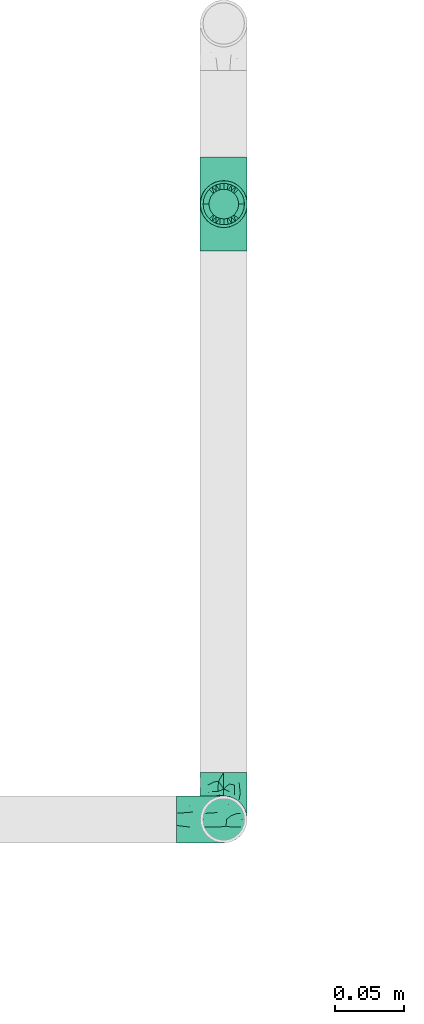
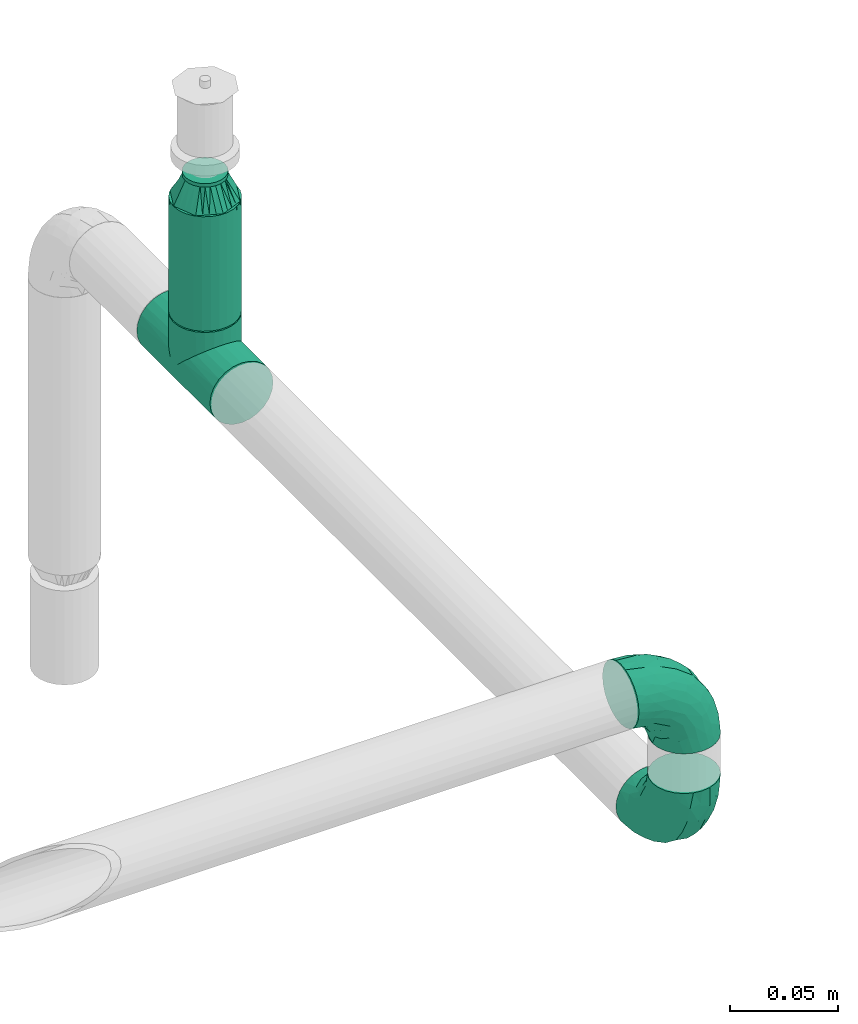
# One storey, part 115 of 157: 4 flow fittings, 1 flow segment.
"""IFC2X3 building model written with IfcOpenShell, lengths in millimetres."""

from ifc_helpers import new_model, entity, si_unit, converted_unit, derived_unit, direction, frame, origin_with_axes, origin_2d_with_axis, place, context, subcontext, project, spatial, hollow_circle, extrude, open_shell, surface_model, source, transform, mapped, type_object, element, save


model = new_model("IFC2X3")

# Units and contexts
model_context = context("Model", 3, precision=0.01, world=frame((0.0, 4.29681676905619e-09, 0.0)), true_north=direction((4.01073788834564e-13, 1.0)))
plan_context = context("Plan", 3, precision=0.01, world=frame((0.0, 4.29681676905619e-09, 0.0)), true_north=direction((4.01073788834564e-13, 1.0)))
body_context = subcontext(model_context, "Body", "Model", "MODEL_VIEW")
ifc_project = project(units=[converted_unit("PLANEANGLEUNIT", "DEGREE", entity("IfcPositiveLengthMeasure", 0.0174532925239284), si_unit("PLANEANGLEUNIT", "RADIAN"), dimensions=[0, 0, 0, 0, 0, 0, 0]), si_unit("AREAUNIT", "SQUARE_METRE"), si_unit("LENGTHUNIT", "METRE", prefix="MILLI"), si_unit("MASSUNIT", "GRAM", prefix="KILO"), si_unit("POWERUNIT", "WATT"), si_unit("PRESSUREUNIT", "PASCAL"), si_unit("FORCEUNIT", "NEWTON", prefix="KILO"), si_unit("ELECTRICCURRENTUNIT", "AMPERE"), si_unit("THERMODYNAMICTEMPERATUREUNIT", "DEGREE_CELSIUS"), si_unit("TIMEUNIT", "SECOND"), si_unit("VOLUMEUNIT", "CUBIC_METRE"), derived_unit("LINEARVELOCITYUNIT", [(si_unit("LENGTHUNIT", "METRE"), 1), (si_unit("TIMEUNIT", "SECOND"), -1)]), derived_unit("VOLUMETRICFLOWRATEUNIT", [(si_unit("VOLUMEUNIT", "CUBIC_METRE"), 1), (si_unit("TIMEUNIT", "SECOND"), -1)]), derived_unit("THERMALTRANSMITTANCEUNIT", [(si_unit("POWERUNIT", "WATT"), 1), (si_unit("THERMODYNAMICTEMPERATUREUNIT", "KELVIN"), -1), (si_unit("AREAUNIT", "SQUARE_METRE"), -1)])], contexts=[model_context, plan_context])

# Site, building, storey
site_placement = place(None, frame((0.0, -4.29681676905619e-09, 0.0), z_axis=(0.0, 0.0, 1.0), x_axis=(1.0, 0.0, 0.0)))
site = spatial("IfcSite", under=ifc_project, at=site_placement, CompositionType="ELEMENT")
building_placement = place(site_placement, frame((0.0, 4.29681676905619e-09, 0.0), z_axis=(0.0, 0.0, 1.0), x_axis=(1.0, 0.0, 0.0)))
building = spatial("IfcBuilding", under=site, at=building_placement, Name="mc-building", CompositionType="ELEMENT")
storey_placement = place(building_placement, frame((0.0, 0.0, 204000.0), z_axis=(0.0, 0.0, 1.0), x_axis=(1.0, 0.0, 0.0)))
storey = spatial("IfcBuildingStorey", under=building, at=storey_placement, Name="Nivå D", CompositionType="ELEMENT", Elevation=204000.0)

# Flow fittings
pipe_fitting_type_1 = type_object("IfcPipeFittingType", Name="magi_pipe_fe_tee_centric_90_NOR", PredefinedType="JUNCTION")
shared_shape_1 = source(origin_with_axes(), body_context, "Body", "SurfaceModel", [
    surface_model("IfcShellBasedSurfaceModel", [(-33.8, 4.37404, -16.32415), (-33.8, 0.0, -16.9), (-33.8, 16.32415, -4.37404), (-33.8, 8.45, -14.63583), (-33.8, 11.9501, -11.9501), (-33.8, 14.63583, -8.45), (-33.8, -16.9, 0.0), (-33.8, -11.9501, -11.9501), (-33.8, -14.63583, -8.45), (-33.8, -8.45, -14.63583), (-33.8, -4.37404, -16.32415), (-33.8, -16.32415, -4.37404), (-33.8, 14.63583, 8.45), (-33.8, 16.32415, 4.37404), (-33.8, -8.45, 14.63583), (-33.8, 8.45, 14.63583), (-33.8, 11.9501, 11.9501), (-33.8, 4.37404, 16.32415), (-33.8, 0.0, 16.9), (-33.8, -11.9501, 11.9501), (-33.8, -14.63583, 8.45), (-33.8, -16.32415, 4.37404), (-33.8, -4.37404, 16.32415), (-33.8, 16.9, 0.0), (33.8, 4.37404, -16.32415), (33.8, -16.9, 0.0), (33.8, 0.0, -16.9), (33.8, 14.63583, -8.45), (33.8, 8.45, -14.63583), (33.8, 16.32415, -4.37404), (33.8, 11.9501, -11.9501), (33.8, -16.32415, 4.37404), (33.8, -8.45, -14.63583), (33.8, -4.37404, -16.32415), (33.8, -11.9501, -11.9501), (33.8, -14.63583, -8.45), (33.8, -16.32415, -4.37404), (33.8, 16.32415, 4.37404), (33.8, 8.45, 14.63583), (33.8, 14.63583, 8.45), (33.8, 11.9501, 11.9501), (33.8, -8.45, 14.63583), (33.8, 4.37404, 16.32415), (33.8, -14.63583, 8.45), (33.8, -11.9501, 11.9501), (33.8, 0.0, 16.9), (33.8, -4.37404, 16.32415), (33.8, 16.9, 0.0), (16.28698, -16.28698, 4.51047), (16.9, -16.9, 0.0), (14.62704, -14.62704, 8.4652), (9.47213, -9.47213, 13.99602), (12.26343, -12.26343, 11.62834), (-16.9, -16.9, 0.0), (-16.28698, -16.28698, 4.51047), (-14.62704, -14.62704, 8.4652), (-12.26343, -12.26343, 11.62834), (-9.47213, -9.47213, 13.99602), (-6.42894, -6.42894, 15.62942), (6.42894, -6.42894, 15.62942), (3.24522, -3.24522, 16.58549), (0.0, 0.0, 16.9), (-3.24522, -3.24522, 16.58549), (3.24522, -3.24522, -16.58549), (0.0, 0.0, -16.9), (-3.24522, -3.24522, -16.58549), (-6.42894, -6.42894, -15.62942), (6.42894, -6.42894, -15.62942), (9.47213, -9.47213, -13.99602), (12.26343, -12.26343, -11.62834), (14.62704, -14.62704, -8.4652), (16.28698, -16.28698, -4.51047), (-9.47213, -9.47213, -13.99602), (-12.26343, -12.26343, -11.62834), (-16.28698, -16.28698, -4.51047), (-14.62704, -14.62704, -8.4652), (4.37404, -25.35, -16.32415), (-16.9, -25.35, 0.0), (0.0, -25.35, -16.9), (14.63583, -25.35, -8.45), (8.45, -25.35, -14.63583), (16.32415, -25.35, -4.37404), (11.9501, -25.35, -11.9501), (-11.9501, -25.35, -11.9501), (-8.45, -25.35, -14.63583), (-4.37404, -25.35, -16.32415), (-14.63583, -25.35, -8.45), (-16.32415, -25.35, -4.37404), (16.9, -25.35, 0.0), (8.45, -25.35, 14.63583), (16.32415, -25.35, 4.37404), (14.63583, -25.35, 8.45), (-8.45, -25.35, 14.63583), (11.9501, -25.35, 11.9501), (4.37404, -25.35, 16.32415), (-16.32415, -25.35, 4.37404), (-11.9501, -25.35, 11.9501), (-14.63583, -25.35, 8.45), (0.0, -25.35, 16.9), (-4.37404, -25.35, 16.32415)], [open_shell([[[0, 1, 2]], [[3, 0, 4]], [[0, 2, 5]], [[4, 0, 5]], [[6, 2, 1]], [[7, 8, 9]], [[1, 10, 9]], [[11, 6, 8]], [[1, 9, 8]], [[1, 8, 6]], [[6, 12, 2]], [[12, 13, 2]], [[14, 12, 6]], [[12, 14, 15]], [[16, 12, 15]], [[17, 15, 18]], [[19, 14, 20]], [[21, 20, 14]], [[22, 18, 14]], [[14, 6, 21]], [[14, 18, 15]], [[23, 2, 13]], [[24, 25, 26]], [[27, 24, 28]], [[27, 29, 24]], [[27, 28, 30]], [[31, 25, 24]], [[26, 32, 33]], [[26, 34, 32]], [[35, 25, 36]], [[35, 34, 26]], [[25, 35, 26]], [[24, 29, 31]], [[29, 37, 38]], [[38, 37, 39]], [[38, 31, 29]], [[38, 39, 40]], [[41, 38, 42]], [[43, 41, 44]], [[41, 43, 31]], [[41, 45, 46]], [[41, 31, 38]], [[42, 45, 41]], [[29, 47, 37]], [[31, 43, 48]], [[25, 31, 49]], [[49, 31, 48]], [[43, 50, 48]], [[44, 41, 51]], [[50, 43, 52]], [[51, 52, 44]], [[52, 43, 44]], [[53, 54, 21]], [[53, 21, 6]], [[21, 54, 20]], [[54, 55, 20]], [[56, 57, 19]], [[19, 20, 56]], [[19, 57, 14]], [[56, 20, 55]], [[14, 57, 58]], [[51, 41, 59]], [[60, 45, 61]], [[59, 46, 60]], [[46, 59, 41]], [[60, 46, 45]], [[61, 45, 42]], [[39, 37, 13]], [[16, 38, 40]], [[12, 40, 39]], [[42, 38, 15]], [[23, 37, 47]], [[62, 61, 18]], [[62, 22, 58]], [[22, 62, 18]], [[58, 22, 14]], [[61, 17, 18]], [[42, 17, 61]], [[15, 17, 42]], [[15, 38, 16]], [[12, 16, 40]], [[13, 12, 39]], [[37, 23, 13]], [[5, 27, 30]], [[23, 47, 29]], [[30, 28, 3]], [[27, 2, 29]], [[26, 33, 63]], [[26, 64, 24]], [[64, 26, 63]], [[28, 24, 0]], [[64, 0, 24]], [[4, 30, 3]], [[2, 27, 5]], [[5, 30, 4]], [[2, 23, 29]], [[65, 66, 10]], [[1, 0, 64]], [[1, 65, 10]], [[66, 9, 10]], [[0, 3, 28]], [[1, 64, 65]], [[63, 33, 67]], [[32, 34, 68]], [[69, 68, 34]], [[35, 70, 69]], [[69, 34, 35]], [[32, 68, 67]], [[36, 25, 49]], [[36, 71, 35]], [[71, 36, 49]], [[35, 71, 70]], [[72, 9, 66]], [[72, 7, 9]], [[7, 72, 73]], [[7, 73, 8]], [[74, 53, 11]], [[75, 74, 8]], [[74, 11, 8]], [[11, 53, 6]], [[75, 8, 73]], [[32, 67, 33]], [[76, 77, 78]], [[79, 76, 80]], [[79, 81, 76]], [[79, 80, 82]], [[77, 76, 81]], [[78, 83, 84]], [[84, 85, 78]], [[86, 77, 87]], [[83, 78, 86]], [[77, 86, 78]], [[81, 88, 77]], [[89, 88, 90]], [[89, 90, 91]], [[92, 77, 89]], [[89, 91, 93]], [[92, 89, 94]], [[95, 96, 97]], [[96, 95, 92]], [[92, 98, 99]], [[95, 77, 92]], [[94, 98, 92]], [[89, 77, 88]], [[77, 95, 53]], [[54, 53, 95]], [[97, 96, 56]], [[96, 92, 57]], [[95, 97, 54]], [[58, 92, 99]], [[55, 54, 97]], [[56, 55, 97]], [[58, 57, 92]], [[98, 61, 62]], [[58, 99, 62]], [[56, 96, 57]], [[62, 99, 98]], [[94, 60, 98]], [[89, 59, 94]], [[91, 90, 48]], [[52, 93, 91]], [[93, 51, 89]], [[49, 90, 88]], [[59, 60, 94]], [[51, 59, 89]], [[49, 48, 90]], [[50, 52, 91]], [[48, 50, 91]], [[51, 93, 52]], [[98, 60, 61]], [[88, 81, 49]], [[71, 49, 81]], [[79, 82, 69]], [[82, 80, 68]], [[81, 79, 71]], [[67, 80, 76]], [[70, 71, 79]], [[69, 70, 79]], [[67, 68, 80]], [[78, 64, 63]], [[67, 76, 63]], [[69, 82, 68]], [[63, 76, 78]], [[85, 65, 78]], [[84, 66, 85]], [[86, 87, 74]], [[86, 73, 83]], [[72, 84, 83]], [[53, 87, 77]], [[66, 65, 85]], [[72, 66, 84]], [[53, 74, 87]], [[75, 73, 86]], [[74, 75, 86]], [[72, 83, 73]], [[78, 65, 64]]])]),
])
flow_fitting_1_placement = place(storey_placement, frame((524499.91685, 416469.99999, 2600.0), z_axis=(-0.999999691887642, 0.0, 0.000784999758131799), x_axis=(0.0, 1.0, 0.0)))
element("IfcFlowFitting", 1, at=flow_fitting_1_placement, inside=storey, type_object=pipe_fitting_type_1, Name="magi_pipe_fe_tee_centric_90_NOR", context=body_context, shape_type="MappedRepresentation", body=[
    mapped(shared_shape_1, transform((0.0, 0.0, 0.0), scale=1.0)),
])
pipe_fitting_type_2 = type_object("IfcPipeFittingType", Name="magi_pipe_fe_elbow_short_001", PredefinedType="BEND")
shared_shape_2 = source(origin_with_axes(), body_context, "Body", "SurfaceModel", [
    surface_model("IfcShellBasedSurfaceModel", [(-33.8, 8.45, -14.63583), (-33.8, 4.37404, -16.32415), (-33.8, 11.9501, -11.9501), (-33.8, -11.9501, -11.9501), (-33.8, -14.63583, -8.45), (-33.8, -8.45, -14.63583), (-33.8, 0.0, -16.9), (-33.8, -4.37404, -16.32415), (-33.8, -4.37404, 16.32415), (-33.8, 0.0, 16.9), (-33.8, -8.45, 14.63583), (-33.8, 16.32415, -4.37404), (-33.8, 14.63583, -8.45), (-33.8, -16.32415, -4.37404), (-33.8, -16.9, 0.0), (-33.8, -16.32415, 4.37404), (-33.8, 11.9501, 11.9501), (-33.8, 14.63583, 8.45), (-33.8, 16.32415, 4.37404), (-33.8, 4.37404, 16.32415), (-33.8, 8.45, 14.63583), (-33.8, -14.63583, 8.45), (-33.8, -11.9501, 11.9501), (-33.8, 16.9, 0.0), (-11.9501, 33.8, -11.9501), (0.0, 33.8, -16.9), (-4.37404, 33.8, -16.32415), (-8.45, 33.8, -14.63583), (-14.63583, 33.8, -8.45), (-16.32415, 33.8, -4.37404), (14.63583, 33.8, -8.45), (8.45, 33.8, 14.63583), (16.32415, 33.8, -4.37404), (8.45, 33.8, -14.63583), (11.9501, 33.8, -11.9501), (4.37404, 33.8, -16.32415), (16.32415, 33.8, 4.37404), (16.9, 33.8, 0.0), (-11.9501, 33.8, 11.9501), (-16.32415, 33.8, 4.37404), (-14.63583, 33.8, 8.45), (-8.45, 33.8, 14.63583), (-4.37404, 33.8, 16.32415), (11.9501, 33.8, 11.9501), (14.63583, 33.8, 8.45), (0.0, 33.8, 16.9), (4.37404, 33.8, 16.32415), (-16.9, 33.8, 0.0), (-24.79389, -13.12945, 9.48721), (-22.19287, -9.75018, 12.59315), (-24.09897, -14.97035, 0.0), (-14.93934, -10.76256, 8.5297), (-22.46095, -14.75051, 5.27077), (14.75051, 22.46094, 5.27077), (11.9251, 13.23888, 4.33236), (13.04069, 14.39795, 0.0), (7.71387, 13.68847, 11.55891), (9.75018, 22.19287, 12.59315), (4.10169, 13.0571, 14.04018), (-24.84007, -6.39063, 15.2048), (-25.81779, -2.23879, 16.61097), (-23.66549, 2.59054, 16.87119), (-26.50418, 14.06512, 11.08152), (-24.21253, 17.66365, 7.72657), (-29.58514, 15.86957, 7.00283), (-6.17382, -7.5455, 0.0), (-13.23888, -11.9251, 4.33236), (-14.39795, -13.04069, 0.0), (-17.81434, 18.87373, 11.97104), (-6.30846, 29.15138, 15.82987), (-2.31622, 25.28002, 16.85849), (-29.23923, 10.23435, 13.77053), (-1.45439, -2.85688, 7.61475), (-0.28326, 0.34872, 10.09509), (-5.74484, -4.04709, 10.4122), (-4.41137, 11.31918, 16.59407), (-8.39727, 3.10034, 15.7812), (-1.72649, 9.1306, 15.53089), (-17.39909, 24.75344, 7.64977), (-26.19233, 20.0512, 0.0), (-28.14518, 17.29657, 4.25857), (-26.05147, 6.6281, 15.96447), (-5.87354, 16.61944, 16.86968), (-12.51807, 12.51807, 16.48937), (-10.06312, 7.38516, 16.81295), (-3.01882, 3.01882, 13.81718), (-13.0571, -4.10169, 14.04018), (-16.82553, -0.15166, 16.38038), (10.76256, 14.93934, 8.5297), (13.12945, 24.79389, 9.48721), (6.39063, 24.84007, 15.2048), (2.23879, 25.81779, 16.61097), (-13.68847, -7.71387, 11.55891), (14.97035, 24.09897, 0.0), (-7.30894, 22.89991, 16.09489), (-10.67958, 26.17414, 14.008), (-12.78295, 18.26924, 15.06066), (-13.88562, 22.45231, 12.93244), (-18.04944, 15.16501, 14.04434), (-23.11658, 20.08178, 4.02986), (-21.84989, 21.84989, 0.0), (-18.55817, 25.48277, 3.93065), (-13.95142, 26.94732, 11.03289), (-18.57098, 7.23906, 16.59756), (-16.58335, 4.14122, 16.89279), (-17.96666, 11.46709, 15.63151), (-9.84453, 17.54304, 16.18938), (0.15166, 16.82553, 16.38038), (-23.27207, 11.47201, 14.23154), (3.84842, 5.86994, 10.70473), (-8.0212, -7.54413, 7.93275), (1.00345, -2.19508, 4.57414), (5.13203, 3.01004, 5.90201), (5.24161, 1.7543, 2.53265), (8.70457, 7.04947, 3.99182), (-20.0512, 26.19233, 0.0), (8.4852, 8.76699, 7.09296), (-4.55488, -6.72064, 4.90681), (2.05031, -2.05031, 0.0), (7.5455, 6.17382, 0.0), (-26.75399, 2.1369, -16.845), (-14.61995, 24.73803, -11.27736), (-28.45274, -13.45335, -9.81895), (-26.00469, 6.63555, -15.96645), (-23.06726, 20.04573, -4.26202), (-13.80647, -4.26506, -14.17873), (-14.67501, -0.21081, -16.07388), (-6.7902, -0.2828, -13.8478), (-24.53586, 11.08096, -14.13417), (-26.72048, 14.00837, -11.05776), (10.0967, 24.44989, -12.75976), (5.83237, 21.40218, -15.03047), (6.66249, 28.54238, -15.38093), (-20.38182, 15.48705, -12.74596), (12.53268, 21.23441, -9.15363), (12.54494, 15.67504, -5.54878), (9.7522, 12.89279, -8.66343), (-15.65186, 19.64213, -13.01327), (-12.03528, 20.66498, -14.67665), (-15.61907, 15.61906, -14.83879), (-25.56551, -15.26206, 0.0), (-24.65452, -15.12934, -5.50955), (13.45335, 28.45274, -9.81895), (15.12934, 24.65452, -5.50955), (-7.35442, -8.31014, -5.65563), (-15.67504, -12.54494, -5.54878), (-24.44989, -10.0967, -12.75976), (0.16522, 0.41303, -9.71728), (-5.70658, -5.33066, -8.89288), (-5.13869, -2.37198, -11.53565), (-21.23441, -12.53268, -9.15363), (0.71146, 7.93863, -14.09382), (0.21081, 14.67501, -16.07388), (3.49291, 14.42772, -14.76381), (-24.89911, -2.13088, -16.591), (-28.54238, -6.66249, -15.38093), (-18.44386, -7.71663, -13.26957), (2.13088, 24.89911, -16.591), (-28.64342, 17.44413, -2.89318), (1.70017, -1.28722, -5.09504), (-16.57067, 26.81947, -7.36596), (-17.69055, 27.4263, -3.76405), (-12.89279, -9.7522, -8.66343), (-5.96611, 5.96611, -15.95814), (-20.53709, 20.09345, -8.28985), (-2.1369, 26.75399, -16.845), (-6.89872, 24.58781, -16.02578), (-10.60739, 26.53157, -13.98044), (-21.40218, -5.83237, -15.03047), (2.93192, 5.89627, -11.55917), (6.89393, 12.61842, -11.82233), (5.58056, 5.95325, -8.79455), (-3.99512, 18.61798, -16.89635), (8.31014, 7.35442, -5.65563), (-9.1383, 9.86148, -16.89041), (-9.99983, 16.02119, -16.39699), (-16.68576, 9.78031, -16.34199), (-27.01915, 16.61158, -7.12979), (15.26206, 25.56551, 0.0), (-18.61798, 3.99512, -16.89635), (-19.37495, 27.82495, 0.0), (-12.61842, -6.89393, -11.82233), (-18.84705, 19.14018, -10.96545)], [open_shell([[[0, 1, 2]], [[3, 4, 5]], [[6, 7, 5]], [[8, 9, 10]], [[1, 6, 2]], [[11, 12, 2]], [[4, 2, 6]], [[2, 13, 10]], [[5, 4, 6]], [[2, 4, 13]], [[14, 15, 13]], [[11, 2, 16]], [[11, 17, 18]], [[11, 16, 17]], [[19, 20, 16]], [[16, 2, 10]], [[19, 16, 10]], [[21, 22, 15]], [[22, 13, 15]], [[22, 10, 13]], [[10, 9, 19]], [[11, 18, 23]], [[24, 25, 26]], [[24, 26, 27]], [[24, 28, 29]], [[25, 24, 30]], [[31, 32, 24]], [[33, 30, 34]], [[33, 35, 25]], [[25, 30, 33]], [[32, 30, 24]], [[32, 36, 37]], [[38, 24, 29]], [[39, 40, 29]], [[40, 38, 29]], [[38, 41, 42]], [[38, 31, 24]], [[31, 38, 42]], [[36, 43, 44]], [[36, 32, 43]], [[31, 45, 46]], [[32, 31, 43]], [[42, 45, 31]], [[39, 29, 47]], [[22, 48, 49]], [[15, 14, 50]], [[51, 48, 52]], [[53, 54, 55]], [[48, 22, 21]], [[15, 52, 21]], [[56, 57, 58]], [[49, 10, 22]], [[49, 59, 10]], [[9, 60, 61]], [[62, 63, 64]], [[65, 66, 67]], [[57, 43, 31]], [[62, 68, 63]], [[42, 69, 70]], [[20, 71, 16]], [[8, 60, 9]], [[72, 73, 74]], [[75, 76, 77]], [[16, 62, 17]], [[40, 39, 78]], [[79, 23, 80]], [[64, 18, 17]], [[9, 61, 19]], [[19, 81, 20]], [[82, 83, 84]], [[74, 85, 86]], [[59, 86, 87]], [[88, 89, 57]], [[90, 31, 46]], [[44, 53, 36]], [[46, 45, 91]], [[54, 53, 88]], [[44, 89, 53]], [[92, 86, 49]], [[89, 44, 43]], [[10, 59, 8]], [[53, 55, 93]], [[93, 36, 53]], [[66, 52, 67]], [[94, 82, 70]], [[95, 96, 94]], [[97, 98, 96]], [[79, 99, 100]], [[41, 38, 95]], [[101, 100, 99]], [[68, 78, 63]], [[42, 41, 69]], [[23, 18, 80]], [[95, 94, 69]], [[78, 101, 99]], [[38, 102, 95]], [[70, 45, 42]], [[97, 95, 102]], [[15, 50, 52]], [[90, 57, 31]], [[57, 90, 58]], [[81, 19, 61]], [[103, 104, 84]], [[105, 81, 103]], [[38, 40, 102]], [[106, 96, 83]], [[94, 106, 82]], [[91, 70, 107]], [[71, 62, 16]], [[62, 108, 98]], [[86, 59, 49]], [[67, 52, 50]], [[60, 59, 87]], [[92, 49, 51]], [[86, 85, 76]], [[91, 90, 46]], [[37, 36, 93]], [[107, 77, 58]], [[107, 58, 90]], [[58, 85, 109]], [[110, 74, 92]], [[72, 74, 110]], [[66, 51, 52]], [[72, 111, 112]], [[113, 114, 112]], [[56, 88, 57]], [[52, 48, 21]], [[49, 48, 51]], [[57, 89, 43]], [[53, 89, 88]], [[103, 81, 61]], [[71, 81, 108]], [[18, 64, 80]], [[63, 78, 99]], [[47, 115, 101]], [[101, 115, 100]], [[40, 78, 102]], [[68, 102, 78]], [[97, 96, 95]], [[105, 98, 108]], [[103, 84, 83]], [[107, 70, 82]], [[76, 84, 87]], [[82, 84, 75]], [[70, 91, 45]], [[90, 91, 107]], [[59, 60, 8]], [[61, 60, 87]], [[73, 85, 74]], [[109, 112, 116]], [[103, 61, 104]], [[105, 103, 83]], [[96, 105, 83]], [[81, 105, 108]], [[96, 98, 105]], [[62, 98, 68]], [[61, 87, 104]], [[87, 84, 104]], [[86, 76, 87]], [[77, 76, 85]], [[58, 77, 85]], [[75, 77, 107]], [[82, 75, 107]], [[76, 75, 84]], [[81, 71, 20]], [[62, 71, 108]], [[95, 69, 41]], [[70, 69, 94]], [[62, 64, 17]], [[80, 63, 99]], [[63, 80, 64]], [[80, 99, 79]], [[66, 65, 117]], [[110, 66, 117]], [[112, 114, 116]], [[118, 117, 65]], [[110, 92, 51]], [[112, 111, 113]], [[119, 55, 54]], [[74, 86, 92]], [[58, 109, 56]], [[116, 56, 109]], [[66, 110, 51]], [[72, 110, 117]], [[111, 72, 117]], [[73, 112, 109]], [[117, 118, 111]], [[113, 111, 118]], [[118, 119, 113]], [[114, 119, 54]], [[119, 114, 113]], [[116, 54, 88]], [[54, 116, 114]], [[116, 88, 56]], [[112, 73, 72]], [[85, 73, 109]], [[78, 39, 101]], [[47, 101, 39]], [[102, 68, 97]], [[97, 68, 98]], [[82, 106, 83]], [[94, 96, 106]], [[1, 120, 6]], [[28, 24, 121]], [[3, 122, 4]], [[0, 123, 1]], [[100, 124, 79]], [[125, 126, 127]], [[128, 2, 129]], [[130, 131, 132]], [[128, 129, 133]], [[134, 135, 136]], [[137, 138, 139]], [[128, 0, 2]], [[67, 140, 141]], [[134, 142, 143]], [[141, 13, 4]], [[144, 65, 145]], [[146, 3, 5]], [[147, 148, 149]], [[145, 141, 150]], [[151, 152, 153]], [[154, 7, 6]], [[5, 155, 146]], [[150, 146, 156]], [[155, 5, 7]], [[143, 135, 134]], [[35, 157, 25]], [[23, 79, 158]], [[148, 159, 144]], [[160, 161, 29]], [[145, 162, 144]], [[163, 152, 151]], [[29, 28, 160]], [[121, 164, 160]], [[33, 34, 130]], [[25, 165, 26]], [[26, 165, 166]], [[142, 34, 30]], [[24, 27, 167]], [[124, 161, 164]], [[157, 35, 132]], [[155, 154, 168]], [[123, 0, 128]], [[169, 170, 171]], [[172, 157, 152]], [[26, 166, 27]], [[132, 35, 33]], [[142, 130, 34]], [[168, 154, 126]], [[136, 135, 173]], [[133, 137, 139]], [[2, 12, 129]], [[170, 131, 130]], [[30, 32, 143]], [[172, 174, 175]], [[176, 123, 128]], [[158, 177, 11]], [[135, 55, 119]], [[167, 27, 166]], [[175, 166, 172]], [[137, 167, 138]], [[122, 141, 4]], [[140, 14, 13]], [[32, 37, 178]], [[170, 130, 134]], [[152, 157, 131]], [[165, 157, 172]], [[153, 170, 151]], [[152, 163, 174]], [[168, 125, 156]], [[122, 146, 150]], [[120, 154, 6]], [[179, 174, 126]], [[179, 126, 154]], [[126, 163, 127]], [[162, 145, 150]], [[140, 13, 141]], [[32, 178, 143]], [[55, 143, 178]], [[177, 129, 12]], [[128, 133, 139]], [[176, 128, 139]], [[120, 123, 179]], [[121, 160, 28]], [[161, 100, 180]], [[166, 175, 138]], [[121, 24, 167]], [[161, 47, 29]], [[79, 124, 158]], [[124, 164, 177]], [[161, 124, 100]], [[136, 171, 170]], [[127, 163, 151]], [[147, 171, 159]], [[148, 144, 162]], [[127, 151, 169]], [[127, 181, 125]], [[129, 177, 164]], [[12, 11, 177]], [[159, 65, 144]], [[67, 141, 145]], [[143, 55, 135]], [[135, 119, 173]], [[123, 120, 1]], [[154, 120, 179]], [[157, 165, 25]], [[166, 165, 172]], [[172, 152, 174]], [[176, 139, 175]], [[126, 174, 163]], [[176, 174, 179]], [[174, 176, 175]], [[123, 176, 179]], [[150, 181, 162]], [[127, 149, 181]], [[181, 148, 162]], [[159, 148, 147]], [[171, 136, 173]], [[170, 134, 136]], [[159, 171, 173]], [[171, 147, 169]], [[169, 147, 149]], [[151, 170, 169]], [[164, 182, 129]], [[182, 121, 137]], [[181, 149, 148]], [[169, 149, 127]], [[182, 137, 133]], [[167, 137, 121]], [[166, 138, 167]], [[175, 139, 138]], [[129, 182, 133]], [[121, 182, 164]], [[161, 160, 164]], [[47, 161, 180]], [[177, 158, 124]], [[23, 158, 11]], [[130, 132, 33]], [[157, 132, 131]], [[143, 142, 30]], [[130, 142, 134]], [[154, 155, 7]], [[146, 155, 168]], [[146, 122, 3]], [[141, 122, 150]], [[152, 131, 153]], [[159, 119, 118]], [[67, 145, 65]], [[170, 153, 131]], [[119, 159, 173]], [[159, 118, 65]], [[156, 125, 181]], [[126, 125, 168]], [[150, 156, 181]], [[168, 156, 146]]])]),
])
for number, where, z_axis, x_axis, name in (
    (2, (524499.91685, 416026.97024, 2690.0), (0.0, 1.0, 0.0), (1.0, 0.0, 0.0), "magi_pipe_fe_elbow_short_001"),
    (3, (524499.91685, 416026.97024, 2600.0), (1.0, 0.0, 0.0), (0.0, 0.0, -1.0), "magi_pipe_fe_elbow_short_001"),
):
    element("IfcFlowFitting", number, at=place(storey_placement, frame(where, z_axis=z_axis, x_axis=x_axis)), inside=storey, type_object=pipe_fitting_type_2, Name=name, context=body_context, shape_type="MappedRepresentation", body=[
        mapped(shared_shape_2, transform((0.0, 0.0, 0.0), scale=1.0)),
    ])
pipe_fitting_type_3 = type_object("IfcPipeFittingType", Name="magi_pipe_fe_reducer_centric_short_NOR", PredefinedType="TRANSITION")
shared_shape_3 = source(origin_with_axes(), body_context, "Body", "SurfaceModel", [
    surface_model("IfcShellBasedSurfaceModel", [(-2.0, -7.56604, -7.56604), (-2.0, -10.33541, -2.76936), (-2.0, -5.35, -9.26647), (-2.0, 5.35, -9.26647), (-2.0, 10.33541, -2.76936), (-2.0, 7.56604, -7.56604), (12.4, 11.9501, 11.9501), (12.4, 0.0, 16.9), (12.4, 11.9501, -11.9501), (12.4, 16.9, 0.0), (0.0, -10.7, 0.0), (0.0, -5.35, 9.26647), (0.0, -5.35, -9.26647), (0.0, 10.7, 0.0), (12.4, 15.66253, -2.98753), (12.4, 8.96258, -13.18758), (0.0, 6.6875, -6.94985), (12.4, -15.66253, -2.98753), (12.4, -16.9, 0.0), (12.4, 5.97505, -14.42505), (0.0, 5.35, -9.26647), (12.4, 14.42505, -5.97505), (0.0, 8.025, -4.63324), (0.0, 9.3625, -2.31662), (0.0, -9.3625, -2.31662), (0.0, -8.025, -4.63324), (12.4, -14.42505, -5.97505), (12.4, 13.18758, -8.96258), (12.4, -13.18758, -8.96258), (12.4, -11.9501, -11.9501), (0.0, -6.6875, -6.94985), (12.4, -8.96258, -13.18758), (12.4, -5.97505, -14.42505), (12.4, -15.66253, 2.98753), (12.4, -8.96258, 13.18758), (0.0, -6.6875, 6.94985), (12.4, -11.9501, 11.9501), (12.4, 15.66253, 2.98753), (12.4, -5.97505, 14.42505), (12.4, -14.42505, 5.97505), (0.0, -8.025, 4.63324), (0.0, -9.3625, 2.31662), (0.0, 9.3625, 2.31662), (0.0, 8.025, 4.63324), (12.4, 14.42505, 5.97505), (12.4, -13.18758, 8.96258), (12.4, 13.18758, 8.96258), (0.0, 6.6875, 6.94985), (12.4, 8.96258, 13.18758), (0.0, 5.35, 9.26647), (12.4, 5.97505, 14.42505), (14.4, 4.37404, -16.32415), (14.4, 8.45, -14.63583), (14.4, 11.9501, -11.9501), (14.4, -8.45, -14.63583), (14.4, 16.32415, -4.37404), (14.4, 16.32415, 4.37404), (14.4, 14.63583, -8.45), (14.4, 0.0, -16.9), (14.4, -4.37404, -16.32415), (14.4, -11.9501, -11.9501), (14.4, -16.32415, -4.37404), (14.4, -14.63583, -8.45), (14.4, -16.32415, 4.37404), (14.4, 16.9, 0.0), (14.4, 14.63583, 8.45), (14.4, 11.9501, 11.9501), (14.4, 4.37404, 16.32415), (14.4, 8.45, 14.63583), (14.4, 0.0, 16.9), (14.4, -14.63583, 8.45), (14.4, -16.9, 0.0), (14.4, -8.45, 14.63583), (14.4, -11.9501, 11.9501), (14.4, -4.37404, 16.32415), (12.4, 4.37404, 16.32415), (12.4, -14.63583, 8.45), (12.4, 16.32415, 4.37404), (12.4, 8.45, 14.63583), (12.4, 14.63583, 8.45), (12.4, -8.45, 14.63583), (12.4, -4.37404, 16.32415), (12.4, -16.32415, 4.37404), (12.4, -16.32415, -4.37404), (12.4, -8.45, -14.63583), (12.4, 16.32415, -4.37404), (12.4, 14.63583, -8.45), (12.4, 8.45, -14.63583), (12.4, 4.37404, -16.32415), (12.4, 0.0, -16.9), (12.4, -14.63583, -8.45), (12.4, -4.37404, -16.32415), (-2.0, 2.76936, 10.33541), (-2.0, 0.0, 10.7), (-2.0, 5.35, 9.26647), (-2.0, 7.56604, 7.56604), (-2.0, 9.26647, 5.35), (-2.0, 10.33541, 2.76936), (-2.0, -10.33541, 2.76936), (-2.0, -2.76936, 10.33541), (-2.0, -7.56604, 7.56604), (-2.0, -5.35, 9.26647), (-2.0, -9.26647, 5.35), (-2.0, -10.7, 0.0), (-2.0, 9.26647, -5.35), (-2.0, 2.76936, -10.33541), (-2.0, -9.26647, -5.35), (-2.0, 0.0, -10.7), (-2.0, -2.76936, -10.33541), (-2.0, 10.7, 0.0), (0.0, 0.0, -10.7), (0.0, 2.76936, -10.33541), (0.0, 10.33541, -2.76936), (0.0, 7.56604, -7.56604), (0.0, -10.33541, -2.76936), (0.0, 9.26647, -5.35), (0.0, 0.0, 10.7), (0.0, -2.76936, -10.33541), (0.0, -7.56604, -7.56604), (0.0, -9.26647, -5.35), (0.0, 10.33541, 2.76936), (0.0, 9.26647, 5.35), (0.0, 7.56604, 7.56604), (0.0, 2.76936, 10.33541), (0.0, -7.56604, 7.56604), (0.0, -10.33541, 2.76936), (0.0, -9.26647, 5.35), (0.0, -2.76936, 10.33541), (0.0, 2.675, -9.26647), (0.0, -2.675, -9.26647), (12.4, 2.98753, -15.66253), (0.0, 0.0, -9.26647), (12.4, -2.98753, -15.66253), (0.0, -2.675, 9.26647), (0.0, 2.675, 9.26647), (12.4, -2.98753, 15.66253), (0.0, 0.0, 9.26647), (12.4, 2.98753, 15.66253)], [open_shell([[[0, 1, 2]], [[3, 4, 5]], [[6, 7, 8]], [[8, 9, 6]], [[10, 11, 12]], [[13, 9, 14]], [[15, 16, 8]], [[17, 18, 10]], [[15, 19, 20]], [[21, 22, 23]], [[24, 25, 26]], [[22, 21, 27]], [[28, 26, 25]], [[29, 30, 31]], [[12, 32, 31]], [[10, 18, 33]], [[34, 35, 36]], [[37, 9, 13]], [[34, 38, 11]], [[39, 40, 41]], [[42, 43, 44]], [[40, 39, 45]], [[46, 44, 43]], [[6, 47, 48]], [[49, 50, 48]], [[51, 52, 53]], [[54, 51, 53]], [[53, 55, 56]], [[55, 53, 57]], [[53, 56, 54]], [[58, 54, 59]], [[58, 51, 54]], [[60, 61, 62]], [[61, 60, 54]], [[54, 63, 61]], [[56, 55, 64]], [[56, 65, 66]], [[56, 66, 67]], [[67, 63, 54]], [[67, 66, 68]], [[63, 67, 69]], [[69, 70, 63]], [[71, 61, 63]], [[70, 72, 73]], [[70, 69, 72]], [[72, 69, 74]], [[54, 56, 67]], [[75, 76, 7]], [[77, 75, 78]], [[6, 79, 77]], [[6, 77, 78]], [[76, 75, 77]], [[80, 76, 36]], [[80, 81, 7]], [[7, 76, 80]], [[82, 76, 77]], [[82, 83, 18]], [[82, 77, 84]], [[77, 85, 8]], [[8, 85, 86]], [[8, 87, 88]], [[84, 77, 8]], [[88, 89, 8]], [[83, 29, 90]], [[29, 83, 84]], [[84, 89, 91]], [[83, 82, 84]], [[8, 89, 84]], [[85, 77, 9]], [[83, 61, 18]], [[90, 62, 83]], [[54, 29, 84]], [[90, 29, 60]], [[59, 84, 91]], [[83, 62, 61]], [[61, 71, 18]], [[59, 54, 84]], [[60, 29, 54]], [[60, 62, 90]], [[58, 59, 91]], [[91, 89, 58]], [[88, 51, 89]], [[87, 52, 88]], [[57, 8, 86]], [[87, 8, 53]], [[55, 86, 85]], [[87, 53, 52]], [[52, 51, 88]], [[64, 55, 85]], [[57, 86, 55]], [[57, 53, 8]], [[9, 64, 85]], [[89, 51, 58]], [[77, 56, 9]], [[79, 65, 77]], [[68, 6, 78]], [[79, 6, 66]], [[67, 78, 75]], [[77, 65, 56]], [[56, 64, 9]], [[67, 68, 78]], [[66, 6, 68]], [[66, 65, 79]], [[69, 67, 75]], [[75, 7, 69]], [[81, 74, 7]], [[80, 72, 81]], [[70, 36, 76]], [[80, 36, 73]], [[63, 76, 82]], [[80, 73, 72]], [[72, 74, 81]], [[71, 63, 82]], [[70, 76, 63]], [[70, 73, 36]], [[18, 71, 82]], [[7, 74, 69]], [[92, 1, 93]], [[94, 1, 92]], [[95, 96, 97]], [[95, 97, 94]], [[98, 93, 1]], [[99, 100, 101]], [[99, 93, 100]], [[100, 98, 102]], [[93, 98, 100]], [[98, 1, 103]], [[94, 97, 1]], [[1, 97, 4]], [[5, 4, 104]], [[4, 3, 1]], [[105, 1, 3]], [[1, 0, 106]], [[2, 107, 108]], [[2, 1, 105]], [[105, 107, 2]], [[4, 97, 109]], [[20, 110, 111]], [[112, 20, 113]], [[114, 20, 112]], [[112, 113, 115]], [[116, 114, 112]], [[110, 12, 117]], [[110, 20, 12]], [[118, 114, 119]], [[114, 118, 12]], [[20, 114, 12]], [[112, 13, 120]], [[120, 121, 122]], [[120, 122, 123]], [[116, 112, 123]], [[123, 122, 49]], [[116, 124, 114]], [[125, 124, 126]], [[10, 114, 125]], [[124, 127, 11]], [[125, 114, 124]], [[127, 124, 116]], [[123, 112, 120]], [[1, 114, 103]], [[106, 119, 1]], [[12, 0, 2]], [[106, 0, 118]], [[117, 2, 108]], [[1, 119, 114]], [[114, 10, 103]], [[117, 12, 2]], [[118, 0, 12]], [[118, 119, 106]], [[110, 117, 108]], [[108, 107, 110]], [[105, 111, 107]], [[3, 20, 105]], [[115, 5, 104]], [[3, 5, 113]], [[112, 104, 4]], [[3, 113, 20]], [[20, 111, 105]], [[13, 112, 4]], [[115, 104, 112]], [[115, 113, 5]], [[109, 13, 4]], [[107, 111, 110]], [[97, 120, 109]], [[96, 121, 97]], [[49, 95, 94]], [[96, 95, 122]], [[123, 94, 92]], [[97, 121, 120]], [[120, 13, 109]], [[123, 49, 94]], [[122, 95, 49]], [[122, 121, 96]], [[116, 123, 92]], [[92, 93, 116]], [[99, 127, 93]], [[101, 11, 99]], [[126, 100, 102]], [[101, 100, 124]], [[125, 102, 98]], [[101, 124, 11]], [[11, 127, 99]], [[10, 125, 98]], [[126, 102, 125]], [[126, 124, 100]], [[103, 10, 98]], [[93, 127, 116]], [[18, 7, 36]], [[18, 29, 8]], [[89, 8, 29]], [[18, 8, 7]], [[13, 11, 49]], [[13, 20, 12]], [[13, 12, 11]], [[24, 26, 17]], [[10, 24, 17]], [[16, 15, 20]], [[30, 12, 31]], [[23, 14, 21]], [[19, 128, 20]], [[27, 8, 16]], [[32, 12, 129]], [[30, 28, 25]], [[130, 131, 128]], [[129, 132, 32]], [[16, 22, 27]], [[13, 14, 23]], [[128, 19, 130]], [[130, 89, 131]], [[131, 132, 129]], [[89, 132, 131]], [[28, 30, 29]], [[42, 44, 37]], [[13, 42, 37]], [[35, 34, 11]], [[47, 49, 48]], [[41, 33, 39]], [[38, 133, 11]], [[45, 36, 35]], [[50, 49, 134]], [[47, 46, 43]], [[135, 136, 133]], [[134, 137, 50]], [[35, 40, 45]], [[10, 33, 41]], [[133, 38, 135]], [[135, 7, 136]], [[136, 137, 134]], [[7, 137, 136]], [[46, 47, 6]]])]),
])
flow_fitting_2_placement = place(storey_placement, frame((524500.0, 416469.99999, 2703.04798), z_axis=(0.0, 1.0, 0.0), x_axis=(0.0, 0.0, -1.0)))
element("IfcFlowFitting", 4, at=flow_fitting_2_placement, inside=storey, type_object=pipe_fitting_type_3, Name="magi_pipe_fe_reducer_centric_short_NOR", context=body_context, shape_type="MappedRepresentation", body=[
    mapped(shared_shape_3, transform((0.0, 0.0, 0.0), scale=1.0)),
])

# Flow segment
pipe_segment_type = type_object("IfcPipeSegmentType", Name="Stålrør normaltykke", PredefinedType="RIGIDSEGMENT")
shared_shape_4 = source(origin_with_axes(), body_context, "Body", "SweptSolid", [
    extrude(hollow_circle(Radius=16.9, WallThickness=2.0, at=origin_2d_with_axis()), frame((0.0, 0.0, 0.0), z_axis=(1.0, 0.0, 0.0), x_axis=(0.0, 1.0, 0.0)), (0.0, 0.0, 1.0), 64.6),
])
flow_segment_placement = place(storey_placement, frame((524500.0, 416469.99999, 2690.64798000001), z_axis=(0.0, 1.0, 0.0), x_axis=(-0.000968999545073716, 0.0, -0.999999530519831)))
element("IfcFlowSegment", 5, at=flow_segment_placement, inside=storey, type_object=pipe_segment_type, Name="Stålrør normaltykke", context=body_context, shape_type="MappedRepresentation", body=[
    mapped(shared_shape_4, transform((0.0, 0.0, 0.0), scale=1.0)),
])

save(model, "model.ifc")
